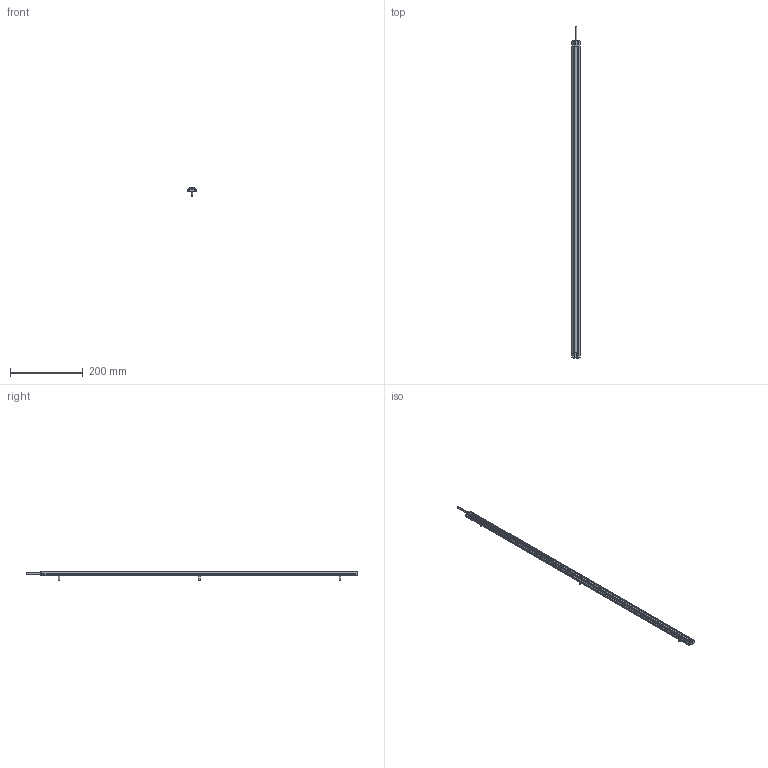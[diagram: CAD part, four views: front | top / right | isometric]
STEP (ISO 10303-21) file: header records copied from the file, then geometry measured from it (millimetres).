
FILE_DESCRIPTION (( 'STEP AP214' ), '1' );
FILE_NAME ('ILGA-B-K1-0870mm.STEP', '2026-04-24T22:49:59', ( '' ), ( '' ), 'SwSTEP 2.0', 'SolidWorks 2025', '' );
FILE_SCHEMA (( 'AUTOMOTIVE_DESIGN' ));
Length unit declared in the file: millimetre
Products named in the file (1): ILGA-B-K1-0870mm
Bounding box: 22.4 x 910 x 25.7 mm (x, y, z)
Volume: 67315.9 mm3; surface area: 119238.1 mm2
Topology: 12 solids, 12 shells, 715 faces, 1840 edges, 1126 vertices
Faces by surface type: plane 311, cylinder 264, cone 58, torus 42, bspline 24, sphere 16
Entity records: 29893 total; most frequent: CARTESIAN_POINT 4582, DIRECTION 3776, ORIENTED_EDGE 3592, EDGE_CURVE 1796, AXIS2_PLACEMENT_3D 1408, VERTEX_POINT 1126, VECTOR 960, LINE 960
